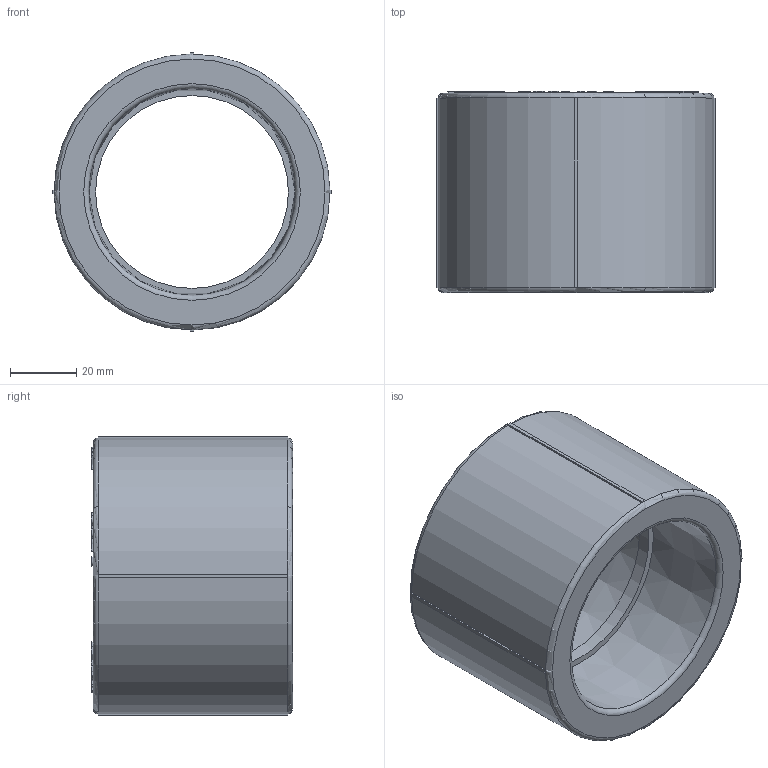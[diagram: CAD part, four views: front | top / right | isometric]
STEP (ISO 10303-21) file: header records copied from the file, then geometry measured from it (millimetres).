
FILE_DESCRIPTION(('STEP AP203'), '1');
FILE_NAME('ÂÐ.713151.006 - VTp.703.0.063', '', ('UNSPECIFIED'), ('UNSPECIFIED'), 'C3D Converter', 'C3D Toolkit', '');
FILE_SCHEMA(('CONFIG_CONTROL_DESIGN'));
Length unit declared in the file: millimetre
Products named in the file (1): ВР.713151.006
Bounding box: 84 x 60.5 x 84 mm (x, y, z)
Volume: 144582.5 mm3; surface area: 32596.6 mm2
Topology: 1 solids, 1 shells, 577 faces, 1611 edges, 1068 vertices
Faces by surface type: extrusion 329, plane 237, cylinder 5, torus 4, cone 2
Full cylindrical faces by diameter (mm): 58 x1
Entity records: 18796 total; most frequent: CARTESIAN_POINT 5224, ORIENTED_EDGE 3208, DIRECTION 1801, EDGE_CURVE 1604, VECTOR 1247, VERTEX_POINT 1068, B_SPLINE_CURVE_WITH_KNOTS 987, LINE 918
